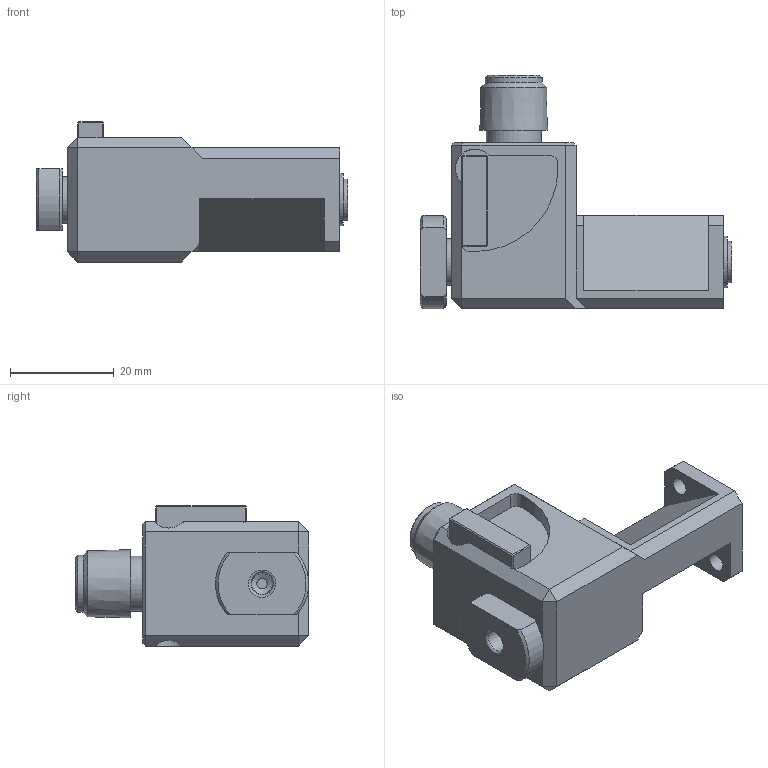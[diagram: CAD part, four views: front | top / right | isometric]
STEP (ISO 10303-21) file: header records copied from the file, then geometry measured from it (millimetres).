
FILE_DESCRIPTION (( 'STEP AP214' ), '1' );
FILE_NAME ('PCPM-SEMCO-B.STEP', '2024-10-14T09:57:39', ( '' ), ( '' ), 'SwSTEP 2.0', 'SolidWorks 2024', '' );
FILE_SCHEMA (( 'AUTOMOTIVE_DESIGN' ));
Length unit declared in the file: millimetre
Products named in the file (1): PCPM-SEMCO-B
Bounding box: 60 x 45 x 27 mm (x, y, z)
Volume: 23269.4 mm3; surface area: 12217.2 mm2
Topology: 4 solids, 4 shells, 178 faces, 400 edges, 248 vertices
Faces by surface type: plane 112, cylinder 46, cone 19, bspline 1
Full cylindrical faces by diameter (mm): 1 x1, 2 x2, 3.5 x2, 4 x2, 5 x2, 5.2 x1, 6 x1, 6.6 x2, 6.8 x1, 7.2 x1, 8 x3, 9 x2, 10 x2, 10.6 x1, 11 x1, 13 x3, 16.2 x1, 17 x1, 17.2 x1
Entity records: 4962 total; most frequent: CARTESIAN_POINT 1161, DIRECTION 781, ORIENTED_EDGE 682, EDGE_CURVE 341, AXIS2_PLACEMENT_3D 289, EDGE_LOOP 256, VERTEX_POINT 233, FACE_OUTER_BOUND 209
